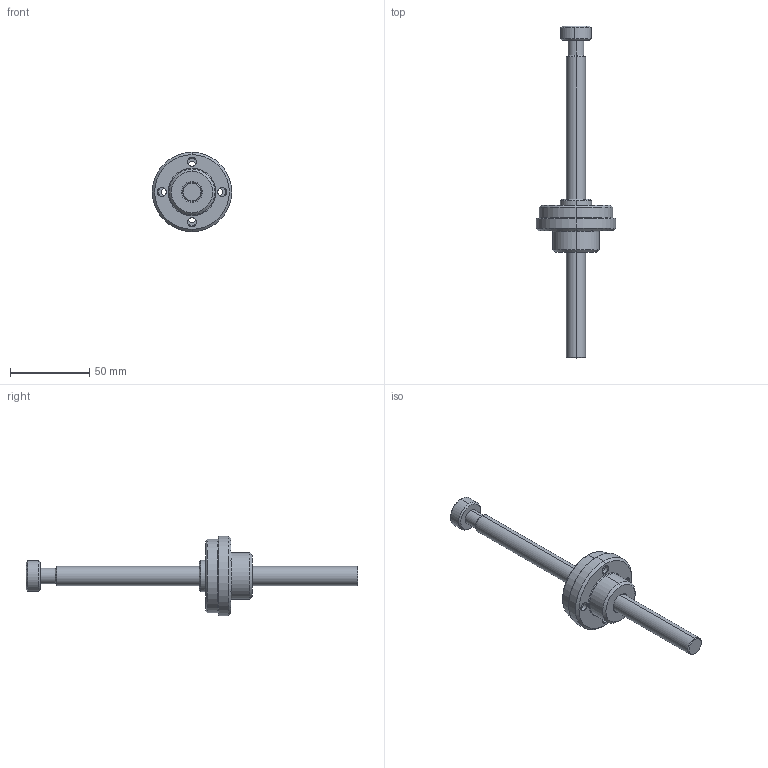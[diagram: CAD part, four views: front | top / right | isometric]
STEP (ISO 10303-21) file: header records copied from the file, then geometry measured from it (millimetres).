
FILE_DESCRIPTION (( 'STEP AP203' ), '1' );
FILE_NAME ('AS-12L.stp', '2019-04-02T12:14:31', ( '' ), ( '' ), 'SwSTEP 2.0', 'SolidWorks 2018', '' );
FILE_SCHEMA (( 'CONFIG_CONTROL_DESIGN' ));
Length unit declared in the file: millimetre
Products named in the file (6): AS12-CORPO; AS12-TESTA STELO; socket head cap screw_iso_ISO 4762 M6 x 25 - 25N; AS12-GHIERA; AS-12L; AS12-STELO200
Assembly tree (5 placements, depth 2):
  AS-12L
    AS12-CORPO
    AS12-GHIERA
    AS12-STELO200
    AS12-TESTA STELO
    socket head cap screw_iso_ISO 4762 M6 x 25 - 25N
Bounding box: 50 x 209 x 50 mm (x, y, z)
Volume: 56218.7 mm3; surface area: 24087.2 mm2
Topology: 8 solids, 8 shells, 216 faces, 492 edges, 302 vertices
Faces by surface type: cylinder 78, cone 70, plane 60, torus 8
Entity records: 6766 total; most frequent: DIRECTION 1208, CARTESIAN_POINT 1014, ORIENTED_EDGE 976, AXIS2_PLACEMENT_3D 496, EDGE_CURVE 488, VERTEX_POINT 302, CIRCLE 272, EDGE_LOOP 258
